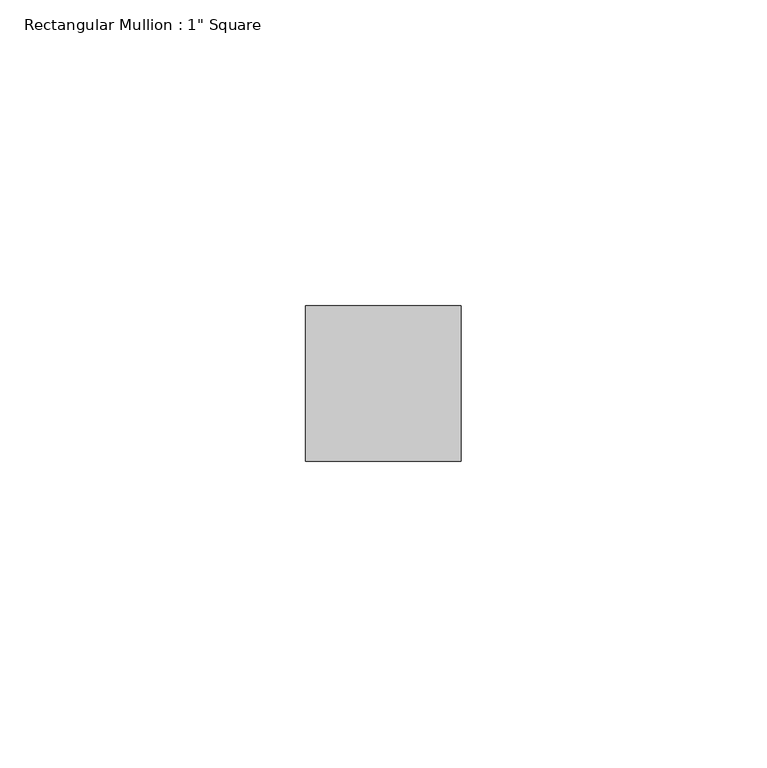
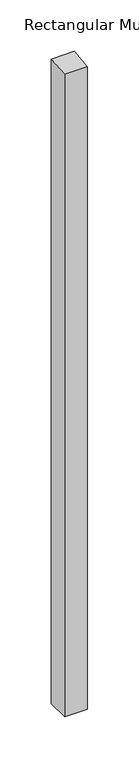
"""IFC4 building model written with IfcOpenShell, lengths in millimetres: member geometry."""

from ifc_helpers import new_model, si_unit, origin, place, context, project, spatial, faceted_brep, source, transform, mapped, element, save


def member_615ff259(model_context):
    return source(origin(), model_context, "Body", "Brep", [
        faceted_brep([(0.0, 12.7, -762.8431501), (0.0, -12.7, -762.8431501), (-25.4, -12.7, -762.8431501), (-25.4, 12.7, -762.8431501), (-25.4, 12.7, 1.2278641), (0.0, 12.7, 1.2769367), (-25.4, -12.7, -1.3260093), (0.0, -12.7, -1.2769367)], [[[0, 1, 2, 3]], [[4, 5, 0, 3]], [[6, 4, 3, 2]], [[7, 6, 2, 1]], [[5, 7, 1, 0]], [[5, 4, 6, 7]]]),
    ])


if __name__ == "__main__":
    model = new_model("IFC4")
    model_context = context("Model", 3, world=origin())
    ifc_project = project(units=[si_unit("LENGTHUNIT", "METRE", prefix="MILLI")], contexts=[model_context])
    site = spatial("IfcSite", under=ifc_project)
    building = spatial("IfcBuilding", under=site)
    placement = place(None, origin())
    member_shape = member_615ff259(model_context)
    element("IfcMember", 1, ObjectType="Rectangular Mullion : 1\" Square", at=placement, inside=building, context=model_context, shape_type="MappedRepresentation", body=[
        mapped(member_shape, transform((0.0, 0.0, 0.0), x_axis=(1.0, 0.0, 0.0), y_axis=(0.0, 1.0, 0.0), z_axis=(0.0, 0.0, 1.0))),
    ])
    save(model, "model.ifc")
